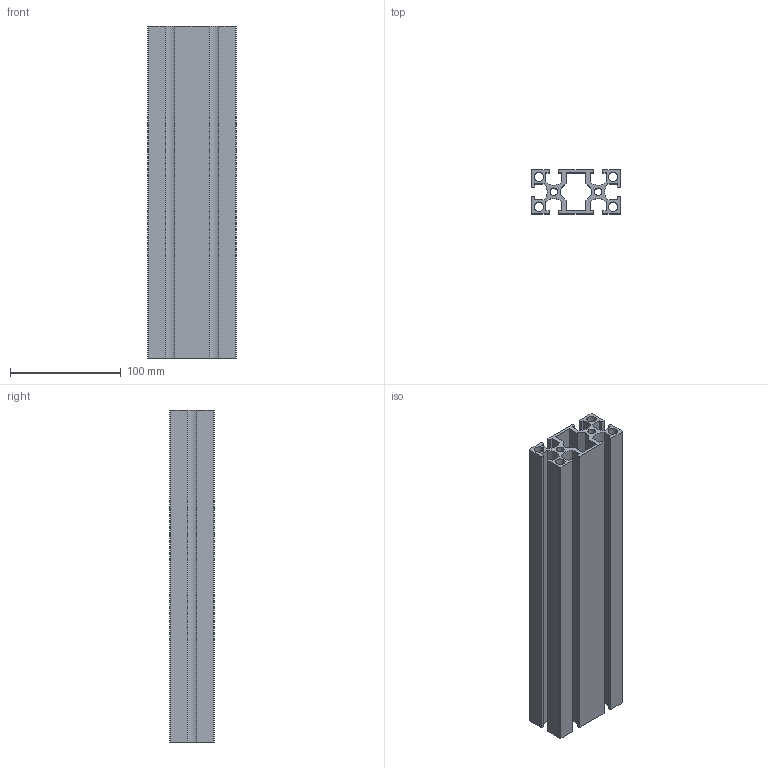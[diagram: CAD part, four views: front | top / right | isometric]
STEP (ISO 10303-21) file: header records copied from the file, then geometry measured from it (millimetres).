
FILE_DESCRIPTION (( 'STEP AP203' ), '1' );
FILE_NAME ('29-CG-4080-8.STEP', '2015-07-07T03:26:58', ( '' ), ( '' ), 'SwSTEP 2.0', 'SolidWorks 2013', '' );
FILE_SCHEMA (( 'CONFIG_CONTROL_DESIGN' ));
Length unit declared in the file: millimetre
Products named in the file (1): 29-CG-4080-8
Bounding box: 80 x 40 x 300 mm (x, y, z)
Volume: 342769.2 mm3; surface area: 217361.4 mm2
Topology: 1 solids, 1 shells, 83 faces, 243 edges, 162 vertices
Faces by surface type: plane 60, cylinder 23
Entity records: 2848 total; most frequent: CARTESIAN_POINT 489, ORIENTED_EDGE 486, DIRECTION 457, EDGE_CURVE 243, LINE 197, VECTOR 197, VERTEX_POINT 162, AXIS2_PLACEMENT_3D 130
